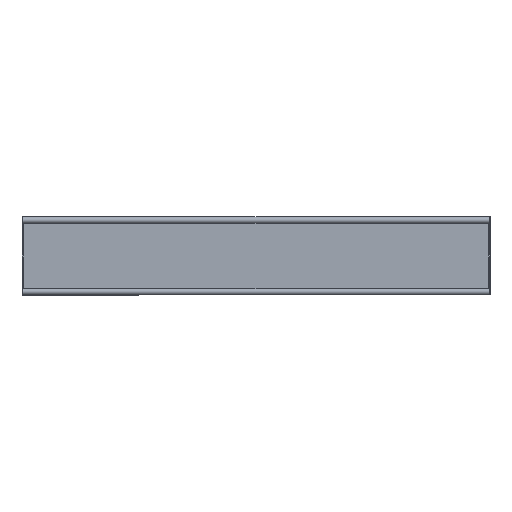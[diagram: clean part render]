
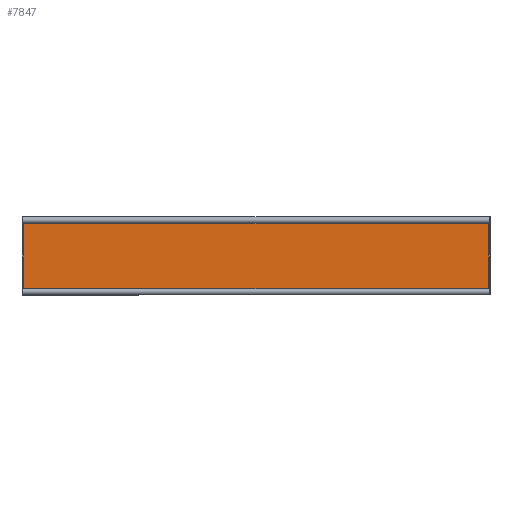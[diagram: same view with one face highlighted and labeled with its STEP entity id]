
A CAD part, front view. The second image highlights one B-rep face of the part: STEP entity #7847.
In plain terms, the highlighted planar face has unit normal (0, -1, 0).
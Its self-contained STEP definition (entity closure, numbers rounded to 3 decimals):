
#42 = EDGE_CURVE ( 'NONE', #9257, #9652, #8420, .T. ) ;
#79 = DIRECTION ( 'NONE',  ( 0., 0., 1. ) ) ;
#226 = VERTEX_POINT ( 'NONE', #5232 ) ;
#619 = EDGE_LOOP ( 'NONE', ( #6349, #1433, #3119, #9370, #4201, #3854, #5795, #3475 ) ) ;
#953 = DIRECTION ( 'NONE',  ( 1., 0., 0. ) ) ;
#1171 = CARTESIAN_POINT ( 'NONE',  ( -749., -2., -124. ) ) ;
#1239 = EDGE_CURVE ( 'NONE', #1503, #226, #8907, .T. ) ;
#1297 = DIRECTION ( 'NONE',  ( 0., 0., 1. ) ) ;
#1433 = ORIENTED_EDGE ( 'NONE', *, *, #7665, .T. ) ;
#1481 = DIRECTION ( 'NONE',  ( 0., 0., 1. ) ) ;
#1503 = VERTEX_POINT ( 'NONE', #8152 ) ;
#1663 = CARTESIAN_POINT ( 'NONE',  ( 746., -2., 120. ) ) ;
#1690 = EDGE_CURVE ( 'NONE', #6751, #1503, #6420, .T. ) ;
#2084 = DIRECTION ( 'NONE',  ( 0., -1., 0. ) ) ;
#2717 = VECTOR ( 'NONE', #6526, 1000. ) ;
#2749 = DIRECTION ( 'NONE',  ( 0., -1., 0. ) ) ;
#2833 = VERTEX_POINT ( 'NONE', #8886 ) ;
#3098 = CARTESIAN_POINT ( 'NONE',  ( -745., -2., -121. ) ) ;
#3119 = ORIENTED_EDGE ( 'NONE', *, *, #42, .F. ) ;
#3406 = AXIS2_PLACEMENT_3D ( 'NONE', #5906, #2749, #4129 ) ;
#3475 = ORIENTED_EDGE ( 'NONE', *, *, #5524, .T. ) ;
#3564 = CARTESIAN_POINT ( 'NONE',  ( -749., -2., 124. ) ) ;
#3854 = ORIENTED_EDGE ( 'NONE', *, *, #1690, .F. ) ;
#4024 = DIRECTION ( 'NONE',  ( 0., 0., 1. ) ) ;
#4123 = DIRECTION ( 'NONE',  ( 0., -1., 0. ) ) ;
#4129 = DIRECTION ( 'NONE',  ( 0., 0., 1. ) ) ;
#4201 = ORIENTED_EDGE ( 'NONE', *, *, #1239, .F. ) ;
#4380 = CARTESIAN_POINT ( 'NONE',  ( 749., -2., 124. ) ) ;
#4626 = LINE ( 'NONE', #6394, #4640 ) ;
#4640 = VECTOR ( 'NONE', #953, 1000. ) ;
#4681 = DIRECTION ( 'NONE',  ( 0., 0., 1. ) ) ;
#4770 = LINE ( 'NONE', #6984, #7558 ) ;
#4826 = AXIS2_PLACEMENT_3D ( 'NONE', #8363, #8993, #1481 ) ;
#5035 = EDGE_CURVE ( 'NONE', #226, #9257, #5058, .T. ) ;
#5058 = LINE ( 'NONE', #9596, #2717 ) ;
#5232 = CARTESIAN_POINT ( 'NONE',  ( -745., -2., 121. ) ) ;
#5524 = EDGE_CURVE ( 'NONE', #8216, #6535, #4626, .T. ) ;
#5795 = ORIENTED_EDGE ( 'NONE', *, *, #6509, .F. ) ;
#5814 = CIRCLE ( 'NONE', #3406, 5. ) ;
#5906 = CARTESIAN_POINT ( 'NONE',  ( 749., -2., -124. ) ) ;
#5974 = PLANE ( 'NONE',  #4826 ) ;
#6073 = FACE_OUTER_BOUND ( 'NONE', #619, .T. ) ;
#6230 = AXIS2_PLACEMENT_3D ( 'NONE', #3564, #2084, #1297 ) ;
#6349 = ORIENTED_EDGE ( 'NONE', *, *, #9719, .F. ) ;
#6394 = CARTESIAN_POINT ( 'NONE',  ( -749., -2., -121. ) ) ;
#6420 = LINE ( 'NONE', #7223, #9873 ) ;
#6430 = AXIS2_PLACEMENT_3D ( 'NONE', #1171, #4123, #4024 ) ;
#6509 = EDGE_CURVE ( 'NONE', #8216, #6751, #8469, .T. ) ;
#6526 = DIRECTION ( 'NONE',  ( 1., 0., 0. ) ) ;
#6535 = VERTEX_POINT ( 'NONE', #9483 ) ;
#6751 = VERTEX_POINT ( 'NONE', #7412 ) ;
#6984 = CARTESIAN_POINT ( 'NONE',  ( 746., -2., -124. ) ) ;
#7223 = CARTESIAN_POINT ( 'NONE',  ( -746., -2., -124. ) ) ;
#7412 = CARTESIAN_POINT ( 'NONE',  ( -746., -2., -120. ) ) ;
#7450 = DIRECTION ( 'NONE',  ( 0., -1., 0. ) ) ;
#7558 = VECTOR ( 'NONE', #79, 1000. ) ;
#7650 = AXIS2_PLACEMENT_3D ( 'NONE', #4380, #7450, #4681 ) ;
#7665 = EDGE_CURVE ( 'NONE', #2833, #9652, #4770, .T. ) ;
#7717 = CARTESIAN_POINT ( 'NONE',  ( 745., -2., 121. ) ) ;
#7847 = ADVANCED_FACE ( 'NONE', ( #6073 ), #5974, .F. ) ;
#7947 = DIRECTION ( 'NONE',  ( 0., 0., 1. ) ) ;
#8152 = CARTESIAN_POINT ( 'NONE',  ( -746., -2., 120. ) ) ;
#8216 = VERTEX_POINT ( 'NONE', #3098 ) ;
#8363 = CARTESIAN_POINT ( 'NONE',  ( -749., -2., -124. ) ) ;
#8420 = CIRCLE ( 'NONE', #7650, 5. ) ;
#8469 = CIRCLE ( 'NONE', #6430, 5. ) ;
#8886 = CARTESIAN_POINT ( 'NONE',  ( 746., -2., -120. ) ) ;
#8907 = CIRCLE ( 'NONE', #6230, 5. ) ;
#8993 = DIRECTION ( 'NONE',  ( 0., 1., 0. ) ) ;
#9257 = VERTEX_POINT ( 'NONE', #7717 ) ;
#9370 = ORIENTED_EDGE ( 'NONE', *, *, #5035, .F. ) ;
#9483 = CARTESIAN_POINT ( 'NONE',  ( 745., -2., -121. ) ) ;
#9596 = CARTESIAN_POINT ( 'NONE',  ( -749., -2., 121. ) ) ;
#9652 = VERTEX_POINT ( 'NONE', #1663 ) ;
#9719 = EDGE_CURVE ( 'NONE', #2833, #6535, #5814, .T. ) ;
#9873 = VECTOR ( 'NONE', #7947, 1000. ) ;
